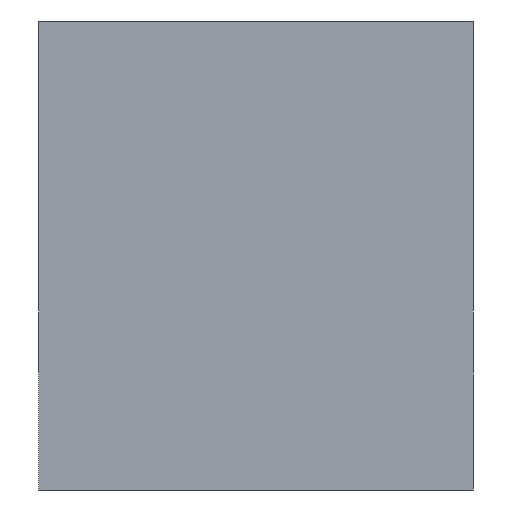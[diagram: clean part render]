
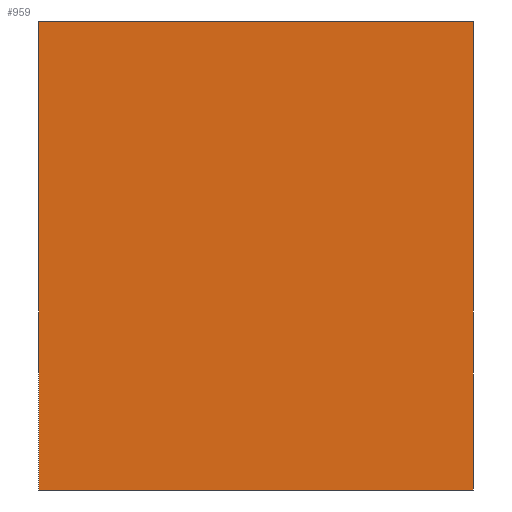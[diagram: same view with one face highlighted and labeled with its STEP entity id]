
A CAD part, left-side view. The second image highlights one B-rep face of the part: STEP entity #959.
In plain terms, the highlighted planar face has unit normal (-1, 0, 0).
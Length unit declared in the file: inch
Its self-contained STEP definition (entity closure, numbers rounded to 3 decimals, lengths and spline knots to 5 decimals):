
#2=DIRECTION('',(0.,-1.,0.));
#3=VECTOR('',#2,1.5);
#4=CARTESIAN_POINT('',(0.,0.75,0.807));
#5=LINE('',#4,#3);
#6=DIRECTION('',(0.,0.,-1.));
#7=VECTOR('',#6,1.614);
#8=CARTESIAN_POINT('',(0.,-0.75,0.807));
#9=LINE('',#8,#7);
#10=DIRECTION('',(0.,1.,0.));
#11=VECTOR('',#10,1.5);
#12=CARTESIAN_POINT('',(0.,-0.75,-0.807));
#13=LINE('',#12,#11);
#14=DIRECTION('',(0.,0.,1.));
#15=VECTOR('',#14,1.614);
#16=CARTESIAN_POINT('',(0.,0.75,-0.807));
#17=LINE('',#16,#15);
#738=CARTESIAN_POINT('',(0.,0.75,0.807));
#739=CARTESIAN_POINT('',(0.,-0.75,0.807));
#740=VERTEX_POINT('',#738);
#741=VERTEX_POINT('',#739);
#742=CARTESIAN_POINT('',(0.,-0.75,-0.807));
#743=VERTEX_POINT('',#742);
#744=CARTESIAN_POINT('',(0.,0.75,-0.807));
#745=VERTEX_POINT('',#744);
#944=CARTESIAN_POINT('',(0.,0.,0.));
#945=DIRECTION('',(1.,0.,0.));
#946=DIRECTION('',(0.,0.,-1.));
#947=AXIS2_PLACEMENT_3D('',#944,#945,#946);
#948=PLANE('',#947);
#950=ORIENTED_EDGE('',*,*,#949,.T.);
#952=ORIENTED_EDGE('',*,*,#951,.T.);
#954=ORIENTED_EDGE('',*,*,#953,.T.);
#956=ORIENTED_EDGE('',*,*,#955,.T.);
#957=EDGE_LOOP('',(#950,#952,#954,#956));
#958=FACE_OUTER_BOUND('',#957,.F.);
#959=ADVANCED_FACE('',(#958),#948,.F.);
#949=EDGE_CURVE('',#740,#741,#5,.T.);
#951=EDGE_CURVE('',#741,#743,#9,.T.);
#953=EDGE_CURVE('',#743,#745,#13,.T.);
#955=EDGE_CURVE('',#745,#740,#17,.T.);
